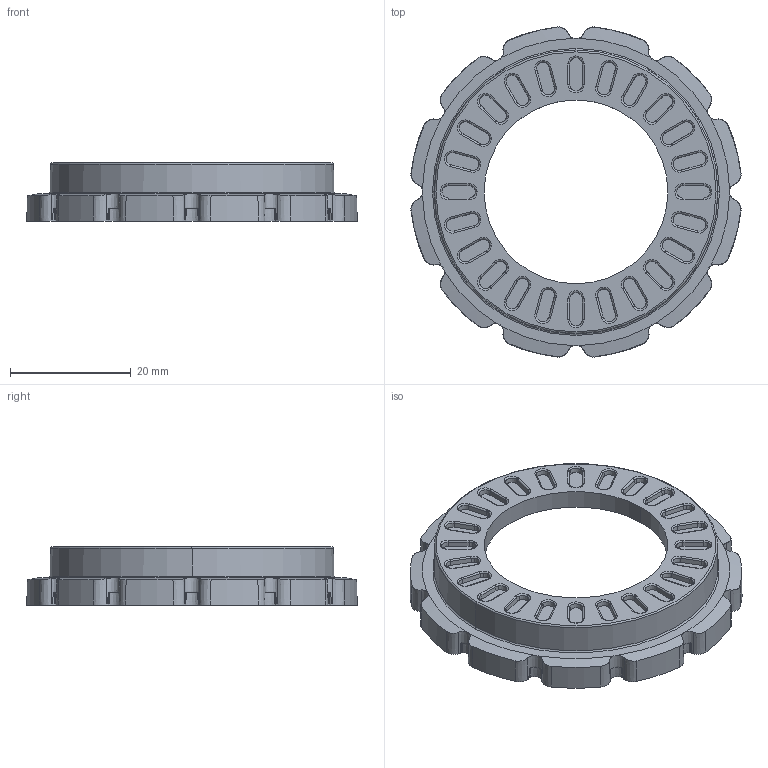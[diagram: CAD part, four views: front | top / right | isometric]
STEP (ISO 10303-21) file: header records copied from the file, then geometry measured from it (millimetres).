
FILE_DESCRIPTION (( 'STEP AP203' ), '1' );
FILE_NAME ('Hubee Rim.STEP', '2013-02-22T16:43:12', ( 'tom' ), ( '' ), 'SwSTEP 2.0', 'SolidWorks 2011', '' );
FILE_SCHEMA (( 'CONFIG_CONTROL_DESIGN' ));
Length unit declared in the file: millimetre
Products named in the file (1): Hubee Rim
Bounding box: 54.67 x 54.67 x 9.6 mm (x, y, z)
Volume: 5146.8 mm3; surface area: 6147.6 mm2
Topology: 1 solids, 1 shells, 517 faces, 1307 edges, 819 vertices
Faces by surface type: cone 201, plane 137, torus 105, cylinder 50, bspline 24
Entity records: 16526 total; most frequent: CARTESIAN_POINT 4134, DIRECTION 2651, ORIENTED_EDGE 2614, EDGE_CURVE 1307, AXIS2_PLACEMENT_3D 1140, VERTEX_POINT 819, CIRCLE 646, EDGE_LOOP 546
